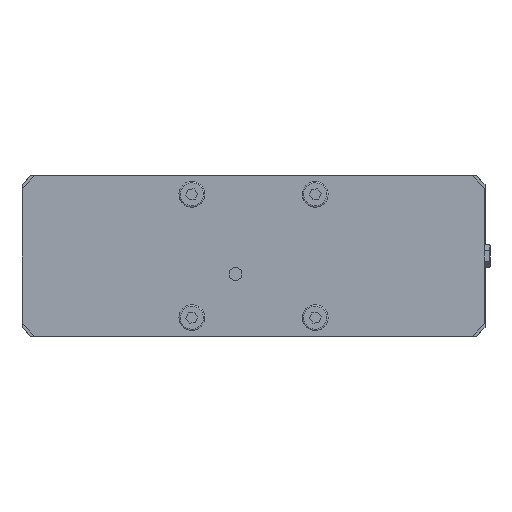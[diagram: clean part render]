
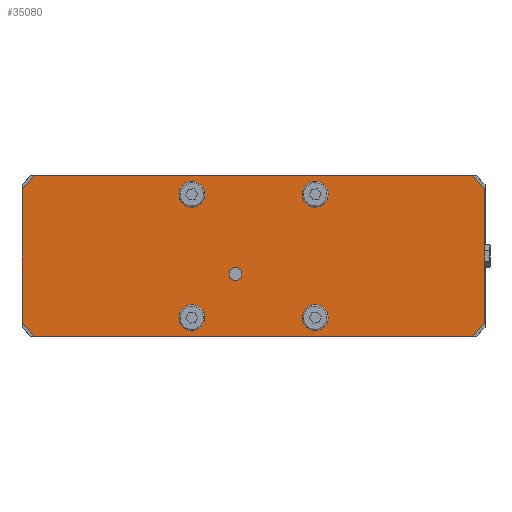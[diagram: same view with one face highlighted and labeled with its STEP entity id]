
A CAD part, front view. The second image highlights one B-rep face of the part: STEP entity #35080.
In plain terms, the highlighted planar face has unit normal (0, -1, 0).
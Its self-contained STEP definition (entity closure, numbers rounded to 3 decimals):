
#1206 = VERTEX_POINT ( 'NONE', #33642 ) ;
#1229 = DIRECTION ( 'NONE',  ( -1., 0., 0. ) ) ;
#1245 = CARTESIAN_POINT ( 'NONE',  ( -170., 0., -62.5 ) ) ;
#1378 = DIRECTION ( 'NONE',  ( -1., 0., 0. ) ) ;
#1439 = AXIS2_PLACEMENT_3D ( 'NONE', #32297, #7527, #3586 ) ;
#1814 = CARTESIAN_POINT ( 'NONE',  ( -170., 0., 62.5 ) ) ;
#1873 = DIRECTION ( 'NONE',  ( 0., 1., 0. ) ) ;
#1922 = CARTESIAN_POINT ( 'NONE',  ( 180., 0., -62.5 ) ) ;
#2284 = CIRCLE ( 'NONE', #38823, 8. ) ;
#2352 = CARTESIAN_POINT ( 'NONE',  ( -48., 0., 48. ) ) ;
#2480 = CARTESIAN_POINT ( 'NONE',  ( -14., 0., -14. ) ) ;
#2992 = ORIENTED_EDGE ( 'NONE', *, *, #7420, .F. ) ;
#3586 = DIRECTION ( 'NONE',  ( 1., 0., 0. ) ) ;
#3588 = FACE_BOUND ( 'NONE', #34209, .T. ) ;
#3916 = DIRECTION ( 'NONE',  ( 0., 0., -1. ) ) ;
#4476 = VERTEX_POINT ( 'NONE', #18737 ) ;
#5105 = EDGE_LOOP ( 'NONE', ( #18631 ) ) ;
#5174 = DIRECTION ( 'NONE',  ( 0., 0., 1. ) ) ;
#5203 = CARTESIAN_POINT ( 'NONE',  ( -180., 0., -52.5 ) ) ;
#5262 = VECTOR ( 'NONE', #29051, 1000. ) ;
#5652 = EDGE_CURVE ( 'NONE', #21521, #21521, #21570, .T. ) ;
#5725 = CIRCLE ( 'NONE', #7966, 5. ) ;
#6203 = DIRECTION ( 'NONE',  ( 0., 0., -1. ) ) ;
#6372 = ORIENTED_EDGE ( 'NONE', *, *, #7284, .T. ) ;
#6748 = ORIENTED_EDGE ( 'NONE', *, *, #18276, .F. ) ;
#6991 = EDGE_CURVE ( 'NONE', #12832, #37197, #15822, .T. ) ;
#7284 = EDGE_CURVE ( 'NONE', #28727, #28727, #2284, .T. ) ;
#7420 = EDGE_CURVE ( 'NONE', #14498, #39313, #39903, .T. ) ;
#7513 = CARTESIAN_POINT ( 'NONE',  ( -48., 0., -48. ) ) ;
#7527 = DIRECTION ( 'NONE',  ( 0., 1., 0. ) ) ;
#7531 = EDGE_CURVE ( 'NONE', #42649, #41650, #15839, .T. ) ;
#7966 = AXIS2_PLACEMENT_3D ( 'NONE', #2480, #41944, #34921 ) ;
#8175 = CARTESIAN_POINT ( 'NONE',  ( 48., 0., -56. ) ) ;
#9098 = CARTESIAN_POINT ( 'NONE',  ( 170., 0., 62.5 ) ) ;
#10367 = LINE ( 'NONE', #28995, #14962 ) ;
#10670 = CARTESIAN_POINT ( 'NONE',  ( -170., 0., 62.5 ) ) ;
#11012 = CARTESIAN_POINT ( 'NONE',  ( -56., 0., -48. ) ) ;
#11523 = EDGE_CURVE ( 'NONE', #42773, #42773, #19365, .T. ) ;
#12832 = VERTEX_POINT ( 'NONE', #5203 ) ;
#14164 = LINE ( 'NONE', #15086, #5262 ) ;
#14498 = VERTEX_POINT ( 'NONE', #23263 ) ;
#14560 = FACE_BOUND ( 'NONE', #5105, .T. ) ;
#14758 = CARTESIAN_POINT ( 'NONE',  ( 56., 0., 48. ) ) ;
#14962 = VECTOR ( 'NONE', #24593, 1000. ) ;
#15086 = CARTESIAN_POINT ( 'NONE',  ( 180., 0., -52.5 ) ) ;
#15370 = CARTESIAN_POINT ( 'NONE',  ( 180., 0., -62.5 ) ) ;
#15756 = VECTOR ( 'NONE', #26984, 1000. ) ;
#15807 = ORIENTED_EDGE ( 'NONE', *, *, #41707, .T. ) ;
#15822 = LINE ( 'NONE', #16036, #29737 ) ;
#15839 = LINE ( 'NONE', #1814, #15756 ) ;
#16036 = CARTESIAN_POINT ( 'NONE',  ( -170., 0., -62.5 ) ) ;
#18198 = DIRECTION ( 'NONE',  ( 0., 0., -1. ) ) ;
#18276 = EDGE_CURVE ( 'NONE', #4476, #4476, #5725, .T. ) ;
#18631 = ORIENTED_EDGE ( 'NONE', *, *, #11523, .T. ) ;
#18737 = CARTESIAN_POINT ( 'NONE',  ( -14., 0., -19. ) ) ;
#18873 = CARTESIAN_POINT ( 'NONE',  ( 48., 0., -48. ) ) ;
#19365 = CIRCLE ( 'NONE', #33490, 8. ) ;
#19844 = ORIENTED_EDGE ( 'NONE', *, *, #38946, .F. ) ;
#20692 = VECTOR ( 'NONE', #1378, 1000. ) ;
#21521 = VERTEX_POINT ( 'NONE', #14758 ) ;
#21535 = ORIENTED_EDGE ( 'NONE', *, *, #43796, .T. ) ;
#21570 = CIRCLE ( 'NONE', #1439, 8. ) ;
#22810 = EDGE_CURVE ( 'NONE', #23374, #42649, #10367, .T. ) ;
#22849 = LINE ( 'NONE', #36897, #20692 ) ;
#23263 = CARTESIAN_POINT ( 'NONE',  ( 180., 0., 52.5 ) ) ;
#23374 = VERTEX_POINT ( 'NONE', #9098 ) ;
#24593 = DIRECTION ( 'NONE',  ( -1., 0., 0. ) ) ;
#25537 = VECTOR ( 'NONE', #40866, 1000. ) ;
#26209 = AXIS2_PLACEMENT_3D ( 'NONE', #2352, #1873, #30783 ) ;
#26584 = LINE ( 'NONE', #40634, #25537 ) ;
#26984 = DIRECTION ( 'NONE',  ( -0.707, 0., -0.707 ) ) ;
#27216 = CARTESIAN_POINT ( 'NONE',  ( -180., 0., -62.5 ) ) ;
#27354 = EDGE_LOOP ( 'NONE', ( #31757 ) ) ;
#28330 = FACE_BOUND ( 'NONE', #27354, .T. ) ;
#28422 = ORIENTED_EDGE ( 'NONE', *, *, #22810, .T. ) ;
#28727 = VERTEX_POINT ( 'NONE', #11012 ) ;
#28751 = DIRECTION ( 'NONE',  ( 0., 1., 0. ) ) ;
#28995 = CARTESIAN_POINT ( 'NONE',  ( 180., 0., 62.5 ) ) ;
#29051 = DIRECTION ( 'NONE',  ( 0.707, 0., 0.707 ) ) ;
#29415 = EDGE_LOOP ( 'NONE', ( #41145 ) ) ;
#29737 = VECTOR ( 'NONE', #30209, 1000. ) ;
#30209 = DIRECTION ( 'NONE',  ( 0.707, 0., -0.707 ) ) ;
#30783 = DIRECTION ( 'NONE',  ( 0., 0., 1. ) ) ;
#31079 = EDGE_CURVE ( 'NONE', #1206, #1206, #45684, .T. ) ;
#31263 = EDGE_LOOP ( 'NONE', ( #28422, #42836, #15807, #35621, #19844, #32796, #2992, #21535 ) ) ;
#31757 = ORIENTED_EDGE ( 'NONE', *, *, #5652, .T. ) ;
#31796 = AXIS2_PLACEMENT_3D ( 'NONE', #1922, #40923, #5174 ) ;
#32297 = CARTESIAN_POINT ( 'NONE',  ( 48., 0., 48. ) ) ;
#32796 = ORIENTED_EDGE ( 'NONE', *, *, #42679, .T. ) ;
#33490 = AXIS2_PLACEMENT_3D ( 'NONE', #18873, #35957, #3916 ) ;
#33642 = CARTESIAN_POINT ( 'NONE',  ( -48., 0., 56. ) ) ;
#34209 = EDGE_LOOP ( 'NONE', ( #6372 ) ) ;
#34921 = DIRECTION ( 'NONE',  ( 0., 0., -1. ) ) ;
#35080 = ADVANCED_FACE ( 'NONE', ( #28330, #14560, #3588, #42615, #36078, #43038 ), #39571, .F. ) ;
#35403 = CARTESIAN_POINT ( 'NONE',  ( 180., 0., -52.5 ) ) ;
#35621 = ORIENTED_EDGE ( 'NONE', *, *, #6991, .T. ) ;
#35867 = VECTOR ( 'NONE', #18198, 1000. ) ;
#35957 = DIRECTION ( 'NONE',  ( 0., 1., 0. ) ) ;
#36078 = FACE_BOUND ( 'NONE', #41841, .T. ) ;
#36210 = CARTESIAN_POINT ( 'NONE',  ( -180., 0., 52.5 ) ) ;
#36897 = CARTESIAN_POINT ( 'NONE',  ( 180., 0., -62.5 ) ) ;
#37197 = VERTEX_POINT ( 'NONE', #1245 ) ;
#38809 = VECTOR ( 'NONE', #6203, 1000. ) ;
#38823 = AXIS2_PLACEMENT_3D ( 'NONE', #7513, #28751, #1229 ) ;
#38946 = EDGE_CURVE ( 'NONE', #41942, #37197, #22849, .T. ) ;
#39313 = VERTEX_POINT ( 'NONE', #35403 ) ;
#39571 = PLANE ( 'NONE',  #31796 ) ;
#39903 = LINE ( 'NONE', #15370, #35867 ) ;
#40634 = CARTESIAN_POINT ( 'NONE',  ( 180., 0., 52.5 ) ) ;
#40866 = DIRECTION ( 'NONE',  ( -0.707, 0., 0.707 ) ) ;
#40923 = DIRECTION ( 'NONE',  ( 0., 1., 0. ) ) ;
#41078 = LINE ( 'NONE', #27216, #38809 ) ;
#41145 = ORIENTED_EDGE ( 'NONE', *, *, #31079, .T. ) ;
#41650 = VERTEX_POINT ( 'NONE', #36210 ) ;
#41707 = EDGE_CURVE ( 'NONE', #41650, #12832, #41078, .T. ) ;
#41841 = EDGE_LOOP ( 'NONE', ( #6748 ) ) ;
#41942 = VERTEX_POINT ( 'NONE', #43116 ) ;
#41944 = DIRECTION ( 'NONE',  ( 0., -1., 0. ) ) ;
#42615 = FACE_BOUND ( 'NONE', #29415, .T. ) ;
#42649 = VERTEX_POINT ( 'NONE', #10670 ) ;
#42679 = EDGE_CURVE ( 'NONE', #41942, #39313, #14164, .T. ) ;
#42773 = VERTEX_POINT ( 'NONE', #8175 ) ;
#42836 = ORIENTED_EDGE ( 'NONE', *, *, #7531, .T. ) ;
#43038 = FACE_OUTER_BOUND ( 'NONE', #31263, .T. ) ;
#43116 = CARTESIAN_POINT ( 'NONE',  ( 170., 0., -62.5 ) ) ;
#43796 = EDGE_CURVE ( 'NONE', #14498, #23374, #26584, .T. ) ;
#45684 = CIRCLE ( 'NONE', #26209, 8. ) ;
